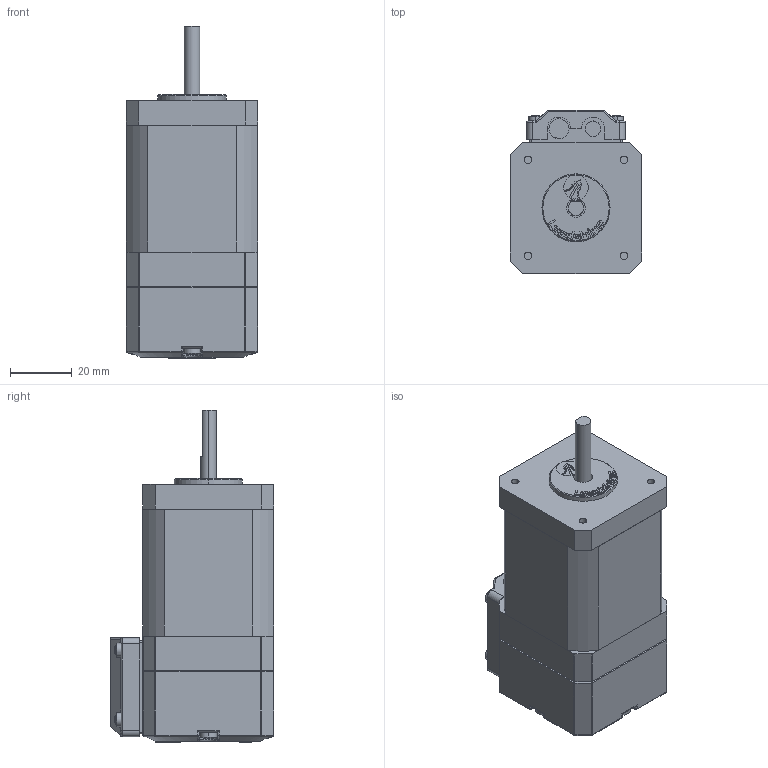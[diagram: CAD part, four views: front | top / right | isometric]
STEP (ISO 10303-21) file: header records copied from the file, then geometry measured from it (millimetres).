
FILE_DESCRIPTION (( 'STEP AP203' ), '1' );
FILE_NAME ('42CME08.STEP', '2017-10-27T08:19:11', ( '' ), ( '' ), 'SwSTEP 2.0', 'SolidWorks 2016', '' );
FILE_SCHEMA (( 'CONFIG_CONTROL_DESIGN' ));
Products named in the file (1): 42CME08
Bounding box: 42.3 x 52.8 x 107.2 mm (x, y, z)
Volume: 77082.4 mm3; surface area: 56414 mm2
Topology: 27 solids, 27 shells, 4146 faces, 9780 edges, 5826 vertices
Faces by surface type: cone 1297, plane 1230, cylinder 1155, bspline 414, sphere 34, torus 16
Entity records: 128144 total; most frequent: CARTESIAN_POINT 34235, ORIENTED_EDGE 19536, DIRECTION 19355, EDGE_CURVE 9768, AXIS2_PLACEMENT_3D 6848, VERTEX_POINT 5826, LINE 5659, VECTOR 5659
